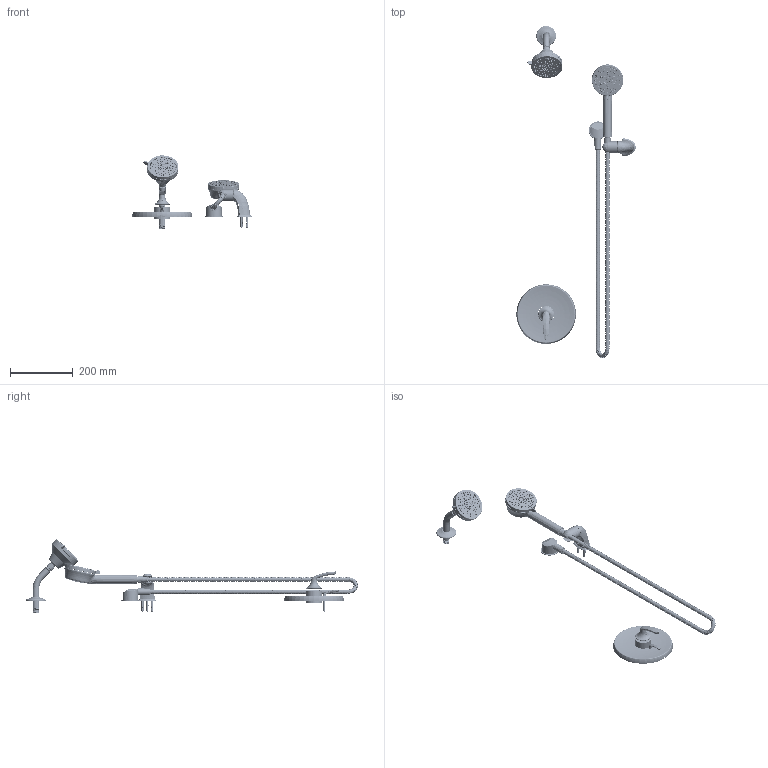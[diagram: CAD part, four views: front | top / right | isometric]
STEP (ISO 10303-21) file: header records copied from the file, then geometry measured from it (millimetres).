
FILE_DESCRIPTION (( 'STEP AP203' ), '1' );
FILE_NAME ('S5598.STEP', '2025-01-16T21:59:22', ( '' ), ( '' ), 'SwSTEP 2.0', 'SolidWorks 2023', '' );
FILE_SCHEMA (( 'CONFIG_CONTROL_DESIGN' ));
Products named in the file (1): S5598
Bounding box: 381.69 x 1061.03 x 234.14 mm (x, y, z)
Surface area: 325700.5 mm2 (no closed solid volume)
Topology: 0 solids, 324 shells, 1377 faces, 6118 edges, 4882 vertices
Faces by surface type: bspline 497, cone 321, plane 280, cylinder 131, torus 108, sphere 40
Entity records: 307845 total; most frequent: CARTESIAN_POINT 267190, ORIENTED_EDGE 8109, EDGE_CURVE 6108, DIRECTION 5658, VERTEX_POINT 4879, B_SPLINE_CURVE_WITH_KNOTS 3417, AXIS2_PLACEMENT_3D 2243, EDGE_LOOP 1868
